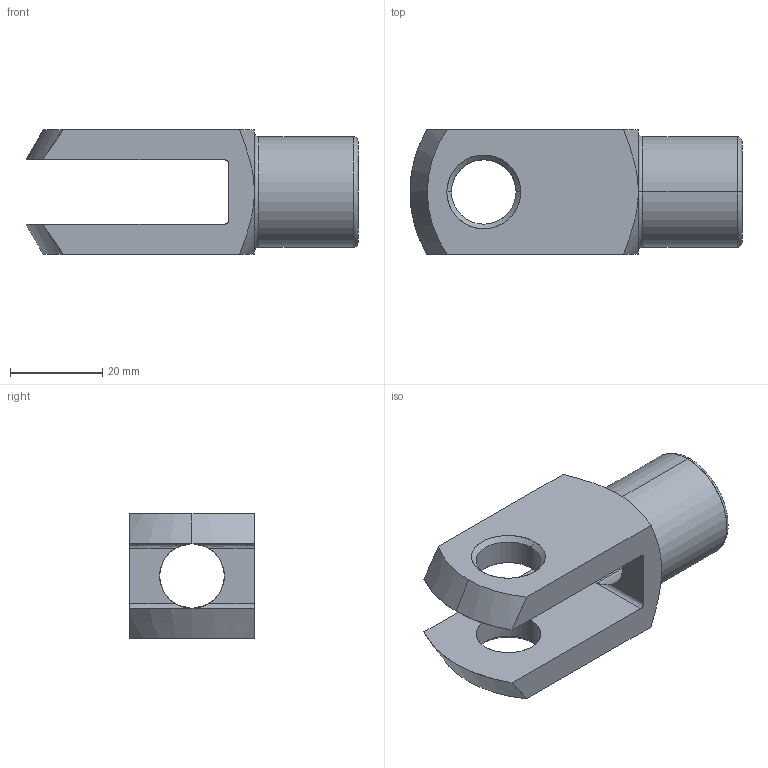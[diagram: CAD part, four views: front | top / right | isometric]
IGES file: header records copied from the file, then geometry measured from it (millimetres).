
Start section: SolidWorks IGES file using analytic representation for surfaces
Global section: file name: C:\Documents and Settings\IANO\My Documents\Wix and Auto CAD Work\CAD Models\Parametric Models\Wix Models\60000\65635_v2\65635_v2_IGES\65635.W0142.igs; native system: SolidWorks 2009; preprocessor: SolidWorks 2009; author: IANO; date: 140117.130639; units: millimetre
Bounding box: 72 x 27 x 27 mm (x, y, z)
Surface area: 9852 mm2 (no closed solid volume)
Topology: 0 solids, 0 shells, 39 faces, 620 edges, 620 vertices
Faces by surface type: revolution 25, bspline 14
